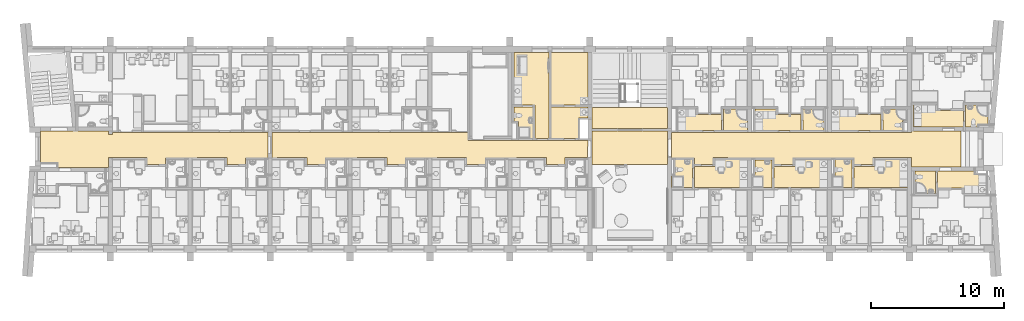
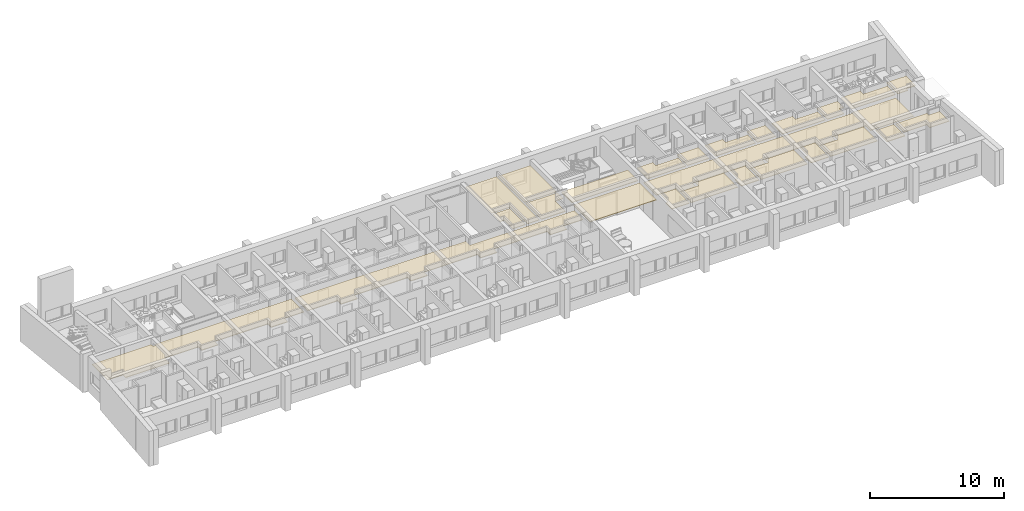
# One storey, part 28 of 165: 25 coverings.
"""IFC2X3 building model written with IfcOpenShell, lengths in millimetres."""

from ifc_helpers import new_model, entity, si_unit, converted_unit, money_unit, direction, frame, origin_with_axes, place, context, subcontext, project, spatial, faceted_brep, material, type_object, element, save


model = new_model("IFC2X3")

# Units and contexts
model_context = context("Model", 3, precision=1e-05, world=origin_with_axes(), true_north=direction((0.0, 1.0)))
body_context = subcontext(model_context, "Body", "Model", "MODEL_VIEW")
ifc_project = project(units=[si_unit("LENGTHUNIT", "METRE", prefix="MILLI"), si_unit("AREAUNIT", "SQUARE_METRE"), si_unit("VOLUMEUNIT", "CUBIC_METRE"), converted_unit("PLANEANGLEUNIT", "DEGREE", entity("IfcPlaneAngleMeasure", 0.0174532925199), si_unit("PLANEANGLEUNIT", "RADIAN"), dimensions=[0, 0, 0, 0, 0, 0, 0]), si_unit("SOLIDANGLEUNIT", "STERADIAN"), money_unit("USD"), converted_unit("TIMEUNIT", "Year", entity("IfcTimeMeasure", 31556926.0), si_unit("TIMEUNIT", "SECOND"), dimensions=[0, 0, 0, 0, 0, 0, 0]), si_unit("MASSUNIT", "GRAM"), si_unit("THERMODYNAMICTEMPERATUREUNIT", "DEGREE_CELSIUS"), si_unit("LUMINOUSINTENSITYUNIT", "LUMEN")], contexts=[model_context])

# Site, building, storey
site_placement = place(None, origin_with_axes())
site = spatial("IfcSite", under=ifc_project, at=site_placement, Name="Site", CompositionType="ELEMENT")
building_placement = place(site_placement, origin_with_axes())
building = spatial("IfcBuilding", under=site, at=building_placement, Name="Building", CompositionType="ELEMENT")
storey_placement = place(building_placement, frame((0.0, 0.0, 6300.0), z_axis=(0.0, 0.0, 1.0), x_axis=(1.0, 0.0, 0.0)))
storey = spatial("IfcBuildingStorey", under=building, at=storey_placement, Name="4KORRUS", CompositionType="ELEMENT", Elevation=6300.0)

# Coverings
ifc_material_1 = material(Name="Alumiiniumprofiil")
covering_type_1 = type_object("IfcCoveringType", Name="Alumiiniumprofiil 50", PredefinedType="NOTDEFINED")
covering_1_placement = place(storey_placement, frame((7553.60828238, -15289.2398994, 2350.0), z_axis=(0.0, 0.0, 1.0), x_axis=(1.0, 0.0, 0.0)))
element("IfcCovering", 1, at=covering_1_placement, inside=storey, type_object=covering_type_1, material=ifc_material_1, Name="RL2", ObjectType="alumiiniumprofiil", PredefinedType="CEILING", context=body_context, shape_type="Brep", body=[
    faceted_brep([(0.0, 0.0, -50.0), (0.0, 2099.869, -50.0), (0.0, 2099.869, 0.0), (0.0, 0.0, 0.0), (-1543.905, 0.0, -50.0), (-1543.905, 912.768, -50.0), (-1293.617, 912.768, -50.0), (-1300.193, 2099.869, -50.0), (-1300.193, 2099.869, 0.0), (-1293.617, 912.768, 0.0), (-1543.905, 912.768, 0.0), (-1543.905, 0.0, 0.0)], [[[0, 1, 2, 3]], [[0, 4, 5, 6, 7, 1]], [[1, 7, 8, 2]], [[3, 2, 8, 9, 10, 11]], [[4, 0, 3, 11]], [[5, 4, 11, 10]], [[6, 5, 10, 9]], [[7, 6, 9, 8]]]),
])
covering_2_placement = place(storey_placement, frame((3884.70329669, -9367.37850445, 2350.0), z_axis=(0.0, 0.0, 1.0), x_axis=(1.0, 0.0, 0.0)))
element("IfcCovering", 2, at=covering_2_placement, inside=storey, type_object=covering_type_1, material=ifc_material_1, Name="RL2", ObjectType="alumiiniumprofiil", PredefinedType="CEILING", context=body_context, shape_type="Brep", body=[
    faceted_brep([(0.0, 0.0, -50.0), (0.0, -1620.723, -50.0), (0.0, -1620.723, 0.0), (0.0, 0.0, 0.0), (1575.0, -1.497, -50.0), (1575.0, -1619.723, -50.0), (1575.0, -1619.723, 0.0), (1575.0, -1.497, 0.0)], [[[0, 1, 2, 3]], [[0, 4, 5, 1]], [[1, 5, 6, 2]], [[3, 2, 6, 7]], [[4, 0, 3, 7]], [[5, 4, 7, 6]]]),
])
covering_3_placement = place(storey_placement, frame((9884.70329669, -10988.1015713, 2350.0), z_axis=(0.0, 0.0, 1.0), x_axis=(1.0, 0.0, 0.0)))
element("IfcCovering", 3, at=covering_3_placement, inside=storey, type_object=covering_type_1, material=ifc_material_1, Name="RL2", ObjectType="alumiiniumprofiil", PredefinedType="CEILING", context=body_context, shape_type="Brep", body=[
    faceted_brep([(0.0, 0.0, -50.0), (1238.577, 0.0, -50.0), (1238.577, 0.0, 0.0), (0.0, 0.0, 0.0), (0.0, 1620.723, -50.0), (1825.0, 1620.723, -50.0), (1825.0, 720.723, -50.0), (1452.923, 710.239, -50.0), (1452.923, 1.497, -50.0), (1452.923, 1.497, 0.0), (1452.923, 710.239, 0.0), (1825.0, 720.723, 0.0), (1825.0, 1620.723, 0.0), (0.0, 1620.723, 0.0)], [[[0, 1, 2, 3]], [[0, 4, 5, 6, 7, 8, 1]], [[1, 8, 9, 2]], [[3, 2, 9, 10, 11, 12, 13]], [[4, 0, 3, 13]], [[5, 4, 13, 12]], [[6, 5, 12, 11]], [[7, 6, 11, 10]], [[8, 7, 10, 9]]]),
])
covering_4_placement = place(storey_placement, frame((12259.8307056, -14039.2398985, 2350.0), z_axis=(0.0, 0.0, 1.0), x_axis=(1.0, 0.0, 0.0)))
element("IfcCovering", 4, at=covering_4_placement, inside=storey, type_object=covering_type_1, material=ifc_material_1, Name="RL2", ObjectType="alumiiniumprofiil", PredefinedType="CEILING", context=body_context, shape_type="Brep", body=[
    faceted_brep([(0.0, 0.0, -50.0), (0.0, -1699.786, -50.0), (0.0, -1699.786, 0.0), (0.0, 0.0, 0.0), (1574.453, -11.335, -50.0), (1574.422, -1699.786, -50.0), (1574.422, -1699.786, 0.0), (1574.453, -11.335, 0.0)], [[[0, 1, 2, 3]], [[0, 4, 5, 1]], [[1, 5, 6, 2]], [[3, 2, 6, 7]], [[4, 0, 3, 7]], [[5, 4, 7, 6]]]),
])
covering_5_placement = place(storey_placement, frame((-5990.29670223, -14380.4716262, 2350.0), z_axis=(0.0, 0.0, 1.0), x_axis=(1.0, 0.0, 0.0)))
element("IfcCovering", 5, at=covering_5_placement, inside=storey, type_object=covering_type_1, material=ifc_material_1, Name="RL2", ObjectType="alumiiniumprofiil", PredefinedType="CEILING", context=body_context, shape_type="Brep", body=[
    faceted_brep([(0.0, 0.0, -50.0), (0.0, -908.768, -50.0), (0.0, -908.768, 0.0), (0.0, 0.0, 0.0), (250.0, 0.0, -50.0), (254.978, 1191.101, -50.0), (1550.193, 1191.101, -50.0), (1550.193, -908.768, -50.0), (1550.193, -908.768, 0.0), (1550.193, 1191.101, 0.0), (254.978, 1191.101, 0.0), (250.0, 0.0, 0.0)], [[[0, 1, 2, 3]], [[0, 4, 5, 6, 7, 1]], [[1, 7, 8, 2]], [[3, 2, 8, 9, 10, 11]], [[4, 0, 3, 11]], [[5, 4, 11, 10]], [[6, 5, 10, 9]], [[7, 6, 9, 8]]]),
])
covering_6_placement = place(storey_placement, frame((1553.60828238, -15289.2398994, 2350.0), z_axis=(0.0, 0.0, 1.0), x_axis=(1.0, 0.0, 0.0)))
element("IfcCovering", 6, at=covering_6_placement, inside=storey, type_object=covering_type_1, material=ifc_material_1, Name="RL2", ObjectType="alumiiniumprofiil", PredefinedType="CEILING", context=body_context, shape_type="Brep", body=[
    faceted_brep([(0.0, 0.0, -50.0), (0.0, 2099.739, -50.0), (0.0, 2099.739, 0.0), (0.0, 0.0, 0.0), (-1543.905, 0.0, -50.0), (-1543.905, 976.249, -50.0), (-1293.905, 976.249, -50.0), (-1295.215, 2099.739, -50.0), (-1295.215, 2099.739, 0.0), (-1293.905, 976.249, 0.0), (-1543.905, 976.249, 0.0), (-1543.905, 0.0, 0.0)], [[[0, 1, 2, 3]], [[0, 4, 5, 6, 7, 1]], [[1, 7, 8, 2]], [[3, 2, 8, 9, 10, 11]], [[4, 0, 3, 11]], [[5, 4, 11, 10]], [[6, 5, 10, 9]], [[7, 6, 9, 8]]]),
])
covering_7_placement = place(storey_placement, frame((16053.8738504, -10739.6041088, 2350.0), z_axis=(0.0, 0.0, 1.0), x_axis=(1.0, 0.0, 0.0)))
element("IfcCovering", 7, at=covering_7_placement, inside=storey, type_object=covering_type_1, material=ifc_material_1, Name="RL2", ObjectType="alumiiniumprofiil", PredefinedType="CEILING", context=body_context, shape_type="Brep", body=[
    faceted_brep([(0.0, 0.0, -50.0), (899.839, 0.0, -50.0), (899.839, 0.0, 0.0), (0.0, 0.0, 0.0), (0.0, 1669.235, -50.0), (1712.688, 1669.235, -50.0), (1712.688, 250.0, -50.0), (899.839, 250.0, -50.0), (899.839, 250.0, 0.0), (1712.688, 250.0, 0.0), (1712.688, 1669.235, 0.0), (0.0, 1669.235, 0.0)], [[[0, 1, 2, 3]], [[0, 4, 5, 6, 7, 1]], [[1, 7, 8, 2]], [[3, 2, 8, 9, 10, 11]], [[4, 0, 3, 11]], [[5, 4, 11, 10]], [[6, 5, 10, 9]], [[7, 6, 9, 8]]]),
])
covering_8_placement = place(storey_placement, frame((-2115.29670331, -10987.6041088, 2350.0), z_axis=(0.0, 0.0, 1.0), x_axis=(1.0, 0.0, 0.0)))
element("IfcCovering", 8, at=covering_8_placement, inside=storey, type_object=covering_type_1, material=ifc_material_1, Name="RL2", ObjectType="alumiiniumprofiil", PredefinedType="CEILING", context=body_context, shape_type="Brep", body=[
    faceted_brep([(0.0, 0.0, -50.0), (1825.0, 1.0, -50.0), (1825.0, 1.0, 0.0), (0.0, 0.0, 0.0), (0.0, 1620.226, -50.0), (1831.288, 1619.226, -50.0), (1831.288, 699.226, -50.0), (1831.288, 699.226, 0.0), (1831.288, 1619.226, 0.0), (0.0, 1620.226, 0.0)], [[[0, 1, 2, 3]], [[0, 4, 5, 6, 1]], [[1, 6, 7, 2]], [[3, 2, 7, 8, 9]], [[4, 0, 3, 9]], [[5, 4, 9, 8]], [[6, 5, 8, 7]]]),
])
covering_9_placement = place(storey_placement, frame((-17840.2967033, -10315.2398994, 2350.0), z_axis=(0.0, 0.0, 1.0), x_axis=(1.0, 0.0, 0.0)))
element("IfcCovering", 9, at=covering_9_placement, inside=storey, type_object=covering_type_1, material=ifc_material_1, Name="RL2", ObjectType="alumiiniumprofiil", PredefinedType="CEILING", context=body_context, shape_type="Brep", body=[
    faceted_brep([(0.0, 0.0, -50.0), (329.774, 0.0, -50.0), (329.774, 0.0, 0.0), (0.0, 0.0, 0.0), (0.0, 1099.667, -50.0), (1436.774, 1099.667, -50.0), (1436.774, -1274.0, -50.0), (336.774, -1274.0, -50.0), (336.774, -1274.0, 0.0), (1436.774, -1274.0, 0.0), (1436.774, 1099.667, 0.0), (0.0, 1099.667, 0.0)], [[[0, 1, 2, 3]], [[0, 4, 5, 6, 7, 1]], [[1, 7, 8, 2]], [[3, 2, 8, 9, 10, 11]], [[4, 0, 3, 11]], [[5, 4, 11, 10]], [[6, 5, 10, 9]], [[7, 6, 9, 8]]]),
])
ifc_material_2 = material(Name="UmbKipsplaat")
covering_type_2 = type_object("IfcCoveringType", Name="UmbKipsplaat 50", PredefinedType="NOTDEFINED")
covering_10_placement = place(storey_placement, frame((-11990.2967033, -10839.6041088, 2350.0), z_axis=(0.0, 0.0, 1.0), x_axis=(1.0, 0.0, 0.0)))
element("IfcCovering", 10, at=covering_10_placement, inside=storey, type_object=covering_type_2, material=ifc_material_2, Name="RL1", ObjectType="kipsplaat", PredefinedType="CEILING", context=body_context, shape_type="Brep", body=[
    faceted_brep([(0.0, 0.0, -50.0), (5700.0, 0.0, -50.0), (5700.0, 0.0, 0.0), (0.0, 0.0, 0.0), (0.0, 1558.961, -50.0), (5700.0, 1558.961, -50.0), (5700.0, 1558.961, 0.0), (0.0, 1558.961, 0.0)], [[[0, 1, 2, 3]], [[0, 4, 5, 1]], [[1, 5, 6, 2]], [[3, 2, 6, 7]], [[4, 0, 3, 7]], [[5, 4, 7, 6]]]),
])
covering_11_placement = place(storey_placement, frame((266.697734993, -9365.87594213, 2350.0), z_axis=(0.0, 0.0, 1.0), x_axis=(1.0, 0.0, 0.0)))
element("IfcCovering", 11, at=covering_11_placement, inside=storey, type_object=covering_type_2, material=ifc_material_2, Name="RL1", ObjectType="kipsplaat", PredefinedType="CEILING", context=body_context, shape_type="Brep", body=[
    faceted_brep([(0.0, 0.0, -50.0), (0.0, -1619.226, -50.0), (0.0, -1619.226, 0.0), (0.0, 0.0, 0.0), (1567.559, -0.503, -50.0), (1567.559, -440.516, -50.0), (3468.006, -440.516, -50.0), (3468.006, -1620.226, -50.0), (3468.006, -1620.226, 0.0), (3468.006, -440.516, 0.0), (1567.559, -440.516, 0.0), (1567.559, -0.503, 0.0)], [[[0, 1, 2, 3]], [[0, 4, 5, 6, 7, 1]], [[1, 7, 8, 2]], [[3, 2, 8, 9, 10, 11]], [[4, 0, 3, 11]], [[5, 4, 11, 10]], [[6, 5, 10, 9]], [[7, 6, 9, 8]]]),
])
covering_12_placement = place(storey_placement, frame((6009.70329669, -9366.37850445, 2350.0), z_axis=(0.0, 0.0, 1.0), x_axis=(1.0, 0.0, 0.0)))
element("IfcCovering", 12, at=covering_12_placement, inside=storey, type_object=covering_type_2, material=ifc_material_2, Name="RL1", ObjectType="kipsplaat", PredefinedType="CEILING", context=body_context, shape_type="Brep", body=[
    faceted_brep([(0.0, 0.0, -50.0), (0.0, -1619.226, -50.0), (0.0, -1619.226, 0.0), (0.0, 0.0, 0.0), (1824.553, -0.503, -50.0), (1824.553, -440.516, -50.0), (3725.0, -440.516, -50.0), (3725.0, -1620.226, -50.0), (3725.0, -1620.226, 0.0), (3725.0, -440.516, 0.0), (1824.553, -440.516, 0.0), (1824.553, -0.503, 0.0)], [[[0, 1, 2, 3]], [[0, 4, 5, 6, 7, 1]], [[1, 7, 8, 2]], [[3, 2, 8, 9, 10, 11]], [[4, 0, 3, 11]], [[5, 4, 11, 10]], [[6, 5, 10, 9]], [[7, 6, 9, 8]]]),
])
covering_13_placement = place(storey_placement, frame((17599.5994706, -15738.0262806, 2350.0), z_axis=(0.0, 0.0, 1.0), x_axis=(1.0, 0.0, 0.0)))
element("IfcCovering", 13, at=covering_13_placement, inside=storey, type_object=covering_type_2, material=ifc_material_2, Name="RL1", ObjectType="kipsplaat", PredefinedType="CEILING", context=body_context, shape_type="Brep", body=[
    faceted_brep([(0.0, 0.0, -50.0), (36.502, -1.0, -50.0), (36.502, -1.0, 0.0), (0.0, 0.0, 0.0), (-1638.051, 0.0, -50.0), (-1638.051, 439.516, -50.0), (-3615.343, 439.516, -50.0), (-3615.343, 1698.786, -50.0), (-898.002, 1698.786, -50.0), (-898.002, 1438.786, -50.0), (36.502, 1438.786, -50.0), (36.502, 1438.786, 0.0), (-898.002, 1438.786, 0.0), (-898.002, 1698.786, 0.0), (-3615.343, 1698.786, 0.0), (-3615.343, 439.516, 0.0), (-1638.051, 439.516, 0.0), (-1638.051, 0.0, 0.0)], [[[0, 1, 2, 3]], [[0, 4, 5, 6, 7, 8, 9, 10, 1]], [[1, 10, 11, 2]], [[3, 2, 11, 12, 13, 14, 15, 16, 17]], [[4, 0, 3, 17]], [[5, 4, 17, 16]], [[6, 5, 16, 15]], [[7, 6, 15, 14]], [[8, 7, 14, 13]], [[9, 8, 13, 12]], [[10, 9, 12, 11]]]),
])
covering_14_placement = place(storey_placement, frame((9240.42259754, -13189.2398994, 2350.0), z_axis=(0.0, 0.0, 1.0), x_axis=(1.0, 0.0, 0.0)))
element("IfcCovering", 14, at=covering_14_placement, inside=storey, type_object=covering_type_2, material=ifc_material_2, Name="RL1", ObjectType="kipsplaat", PredefinedType="CEILING", context=body_context, shape_type="Brep", body=[
    faceted_brep([(0.0, 0.0, -50.0), (0.0, -500.213, -50.0), (0.0, -500.213, 0.0), (0.0, 0.0, 0.0), (2469.281, 0.0, -50.0), (2469.281, -2100.0, -50.0), (-1549.661, -2100.0, -50.0), (-1549.661, -500.213, -50.0), (-1549.661, -500.213, 0.0), (-1549.661, -2100.0, 0.0), (2469.281, -2100.0, 0.0), (2469.281, 0.0, 0.0)], [[[0, 1, 2, 3]], [[0, 4, 5, 6, 7, 1]], [[1, 7, 8, 2]], [[3, 2, 8, 9, 10, 11]], [[4, 0, 3, 11]], [[5, 4, 11, 10]], [[6, 5, 10, 9]], [[7, 6, 9, 8]]]),
])
covering_15_placement = place(storey_placement, frame((-290.296703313, -15289.2398994, 2350.0), z_axis=(0.0, 0.0, 1.0), x_axis=(1.0, 0.0, 0.0)))
element("IfcCovering", 15, at=covering_15_placement, inside=storey, type_object=covering_type_2, material=ifc_material_2, Name="RL1", ObjectType="kipsplaat", PredefinedType="CEILING", context=body_context, shape_type="Brep", body=[
    faceted_brep([(0.0, 0.0, -50.0), (0.0, 2100.0, -50.0), (0.0, 2100.0, 0.0), (0.0, 0.0, 0.0), (-3999.807, 0.0, -50.0), (-3999.807, 1599.787, -50.0), (-2450.146, 1599.787, -50.0), (-2450.146, 2100.0, -50.0), (-2450.146, 2100.0, 0.0), (-2450.146, 1599.787, 0.0), (-3999.807, 1599.787, 0.0), (-3999.807, 0.0, 0.0)], [[[0, 1, 2, 3]], [[0, 4, 5, 6, 7, 1]], [[1, 7, 8, 2]], [[3, 2, 8, 9, 10, 11]], [[4, 0, 3, 11]], [[5, 4, 11, 10]], [[6, 5, 10, 9]], [[7, 6, 9, 8]]]),
])
covering_16_placement = place(storey_placement, frame((3257.08685223, -13189.3705726, 2350.0), z_axis=(0.0, 0.0, 1.0), x_axis=(1.0, 0.0, 0.0)))
element("IfcCovering", 16, at=covering_16_placement, inside=storey, type_object=covering_type_2, material=ifc_material_2, Name="RL1", ObjectType="kipsplaat", PredefinedType="CEILING", context=body_context, shape_type="Brep", body=[
    faceted_brep([(0.0, 0.0, -50.0), (0.0, -500.213, -50.0), (0.0, -500.213, 0.0), (0.0, 0.0, 0.0), (2450.146, 0.0, -50.0), (2450.146, -2099.869, -50.0), (-1549.661, -2099.869, -50.0), (-1549.661, -500.213, -50.0), (-1549.661, -500.213, 0.0), (-1549.661, -2099.869, 0.0), (2450.146, -2099.869, 0.0), (2450.146, 0.0, 0.0)], [[[0, 1, 2, 3]], [[0, 4, 5, 6, 7, 1]], [[1, 7, 8, 2]], [[3, 2, 8, 9, 10, 11]], [[4, 0, 3, 11]], [[5, 4, 11, 10]], [[6, 5, 10, 9]], [[7, 6, 9, 8]]]),
])
covering_17_placement = place(storey_placement, frame((12184.2564771, -9070.3690093, 2350.0), z_axis=(0.0, 0.0, 1.0), x_axis=(1.0, 0.0, 0.0)))
element("IfcCovering", 17, at=covering_17_placement, inside=storey, type_object=covering_type_2, material=ifc_material_2, Name="RL1", ObjectType="kipsplaat", PredefinedType="CEILING", context=body_context, shape_type="Brep", body=[
    faceted_brep([(0.0, 0.0, -50.0), (-24.553, 1.0, -50.0), (-24.553, 1.0, 0.0), (0.0, 0.0, 0.0), (1650.0, 0.0, -50.0), (1650.0, -439.516, -50.0), (3719.617, -439.516, -50.0), (3719.617, -1669.235, -50.0), (-24.553, -1669.235, -50.0), (-24.553, -1669.235, 0.0), (3719.617, -1669.235, 0.0), (3719.617, -439.516, 0.0), (1650.0, -439.516, 0.0), (1650.0, 0.0, 0.0)], [[[0, 1, 2, 3]], [[0, 4, 5, 6, 7, 8, 1]], [[1, 8, 9, 2]], [[3, 2, 9, 10, 11, 12, 13]], [[4, 0, 3, 13]], [[5, 4, 13, 12]], [[6, 5, 12, 11]], [[7, 6, 11, 10]], [[8, 7, 10, 9]]]),
])
covering_18_placement = place(storey_placement, frame((-11990.2967033, -11039.6041145, 2250.0), z_axis=(0.0, 0.0, 1.0), x_axis=(1.0, 0.0, 0.0)))
element("IfcCovering", 18, at=covering_18_placement, inside=storey, type_object=covering_type_2, material=ifc_material_2, Name="RL1", ObjectType="kipsplaat", PredefinedType="CEILING", context=body_context, shape_type="Brep", body=[
    faceted_brep([(0.0, 0.0, -50.0), (0.0, -2516.722, -50.0), (0.0, -2516.722, 0.0), (0.0, 0.0, 0.0), (5700.0, 0.0, -50.0), (5700.0, -2516.722, -50.0), (5700.0, -2516.722, 0.0), (5700.0, 0.0, 0.0)], [[[0, 1, 2, 3]], [[0, 4, 5, 1]], [[1, 5, 6, 2]], [[3, 2, 6, 7]], [[4, 0, 3, 7]], [[5, 4, 7, 6]]]),
])
covering_19_placement = place(storey_placement, frame((-17840.2967033, -6287.17743627, 2350.0), z_axis=(0.0, 0.0, 1.0), x_axis=(1.0, 0.0, 0.0)))
element("IfcCovering", 19, at=covering_19_placement, inside=storey, type_object=covering_type_2, material=ifc_material_2, Name="RL1", ObjectType="kipsplaat", PredefinedType="CEILING", context=body_context, shape_type="Brep", body=[
    faceted_brep([(0.0, -2778.396, -50.0), (1586.774, -2778.396, -50.0), (1586.774, -2778.396, 0.0), (0.0, -2778.396, 0.0), (0.0, 1147.573, -50.0), (2643.0, 1147.573, -50.0), (2643.0, -5302.062, -50.0), (1586.774, -5302.062, -50.0), (1586.774, -5302.062, 0.0), (2643.0, -5302.062, 0.0), (2643.0, 1147.573, 0.0), (0.0, 1147.573, 0.0)], [[[0, 1, 2, 3]], [[0, 4, 5, 6, 7, 1]], [[1, 7, 8, 2]], [[3, 2, 8, 9, 10, 11]], [[4, 0, 3, 11]], [[5, 4, 11, 10]], [[6, 5, 10, 9]], [[7, 6, 9, 8]]]),
])
covering_20_placement = place(storey_placement, frame((-15047.2967033, -11589.2398994, 2350.0), z_axis=(0.0, 0.0, 1.0), x_axis=(1.0, 0.0, 0.0)))
element("IfcCovering", 20, at=covering_20_placement, inside=storey, type_object=covering_type_2, material=ifc_material_2, Name="RL1", ObjectType="kipsplaat", PredefinedType="CEILING", context=body_context, shape_type="Brep", body=[
    faceted_brep([(0.0, 0.0, -50.0), (2057.0, 0.0, -50.0), (2057.0, 0.0, 0.0), (0.0, 0.0, 0.0), (0.0, 2373.667, -50.0), (2757.0, 2373.667, -50.0), (2757.0, 1527.0, -50.0), (2057.0, 1527.0, -50.0), (2057.0, 1527.0, 0.0), (2757.0, 1527.0, 0.0), (2757.0, 2373.667, 0.0), (0.0, 2373.667, 0.0)], [[[0, 1, 2, 3]], [[0, 4, 5, 6, 7, 1]], [[1, 7, 8, 2]], [[3, 2, 8, 9, 10, 11]], [[4, 0, 3, 11]], [[5, 4, 11, 10]], [[6, 5, 10, 9]], [[7, 6, 9, 8]]]),
])
covering_21_placement = place(storey_placement, frame((-5533.30226501, -10985.6040698, 2350.0), z_axis=(0.0, 0.0, 1.0), x_axis=(1.0, 0.0, 0.0)))
element("IfcCovering", 21, at=covering_21_placement, inside=storey, type_object=covering_type_2, material=ifc_material_2, Name="RL1", ObjectType="kipsplaat", PredefinedType="CEILING", context=body_context, shape_type="Brep", body=[
    faceted_brep([(0.0, 0.0, -50.0), (3275.006, -1.0, -50.0), (3275.006, -1.0, 0.0), (0.0, 0.0, 0.0), (0.0, 1619.226, -50.0), (1350.0, 1618.226, -50.0), (1350.0, 1178.71, -50.0), (3275.006, 1178.71, -50.0), (3275.006, 1178.71, 0.0), (1350.0, 1178.71, 0.0), (1350.0, 1618.226, 0.0), (0.0, 1619.226, 0.0)], [[[0, 1, 2, 3]], [[0, 4, 5, 6, 7, 1]], [[1, 7, 8, 2]], [[3, 2, 8, 9, 10, 11]], [[4, 0, 3, 11]], [[5, 4, 11, 10]], [[6, 5, 10, 9]], [[7, 6, 9, 8]]]),
])
covering_22_placement = place(storey_placement, frame((-15047.2967033, -9065.57320461, 2350.0), z_axis=(0.0, 0.0, 1.0), x_axis=(1.0, 0.0, 0.0)))
element("IfcCovering", 22, at=covering_22_placement, inside=storey, type_object=covering_type_2, material=ifc_material_2, Name="RL1", ObjectType="kipsplaat", PredefinedType="CEILING", context=body_context, shape_type="Brep", body=[
    faceted_brep([(0.0, 0.0, -50.0), (2757.0, 0.0, -50.0), (2757.0, 0.0, 0.0), (0.0, 0.0, 0.0), (0.0, 3925.969, -50.0), (2757.0, 3925.969, -50.0), (2757.0, 3925.969, 0.0), (0.0, 3925.969, 0.0)], [[[0, 1, 2, 3]], [[0, 4, 5, 1]], [[1, 5, 6, 2]], [[3, 2, 6, 7]], [[4, 0, 3, 7]], [[5, 4, 7, 6]]]),
])
ifc_material_3 = material(Name="Terasvõrk")
covering_type_3 = type_object("IfcCoveringType", Name="Terasvõrk 50", PredefinedType="NOTDEFINED")
covering_23_placement = place(storey_placement, frame((-53377.938157, -13387.3375674, 2250.0), z_axis=(0.0, 0.0, 1.0), x_axis=(1.0, 0.0, 0.0)))
element("IfcCovering", 23, at=covering_23_placement, inside=storey, type_object=covering_type_3, material=ifc_material_3, Name="RL1", ObjectType="Terasvõrk", PredefinedType="CEILING", context=body_context, shape_type="Brep", body=[
    faceted_brep([(0.0, 0.0, -50.0), (1324.532, 0.0, -50.0), (1324.532, 0.0, 0.0), (0.0, 0.0, 0.0), (0.0, 2347.733, -50.0), (5087.641, 2347.733, -50.0), (5087.641, 2100.891, -50.0), (5387.641, 2097.733, -50.0), (5387.641, 2250.891, -50.0), (17087.641, 2250.733, -50.0), (17087.641, 348.024, -50.0), (15393.736, 347.967, -50.0), (15393.736, -152.115, -50.0), (13994.076, -152.115, -50.0), (13994.076, 348.098, -50.0), (9393.736, 347.967, -50.0), (9393.736, -152.115, -50.0), (7994.076, -152.115, -50.0), (7994.076, 348.098, -50.0), (5087.641, 348.098, -50.0), (5087.641, -400.0, -50.0), (1324.532, -393.503, -50.0), (1324.532, -393.503, 0.0), (5087.641, -400.0, 0.0), (5087.641, 348.098, 0.0), (7994.076, 348.098, 0.0), (7994.076, -152.115, 0.0), (9393.736, -152.115, 0.0), (9393.736, 347.967, 0.0), (13994.076, 348.098, 0.0), (13994.076, -152.115, 0.0), (15393.736, -152.115, 0.0), (15393.736, 347.967, 0.0), (17087.641, 348.024, 0.0), (17087.641, 2250.733, 0.0), (5387.641, 2250.891, 0.0), (5387.641, 2097.733, 0.0), (5087.641, 2100.891, 0.0), (5087.641, 2347.733, 0.0), (0.0, 2347.733, 0.0)], [[[0, 1, 2, 3]], [[0, 4, 5, 6, 7, 8, 9, 10, 11, 12, 13, 14, 15, 16, 17, 18, 19, 20, 21, 1]], [[1, 21, 22, 2]], [[3, 2, 22, 23, 24, 25, 26, 27, 28, 29, 30, 31, 32, 33, 34, 35, 36, 37, 38, 39]], [[4, 0, 3, 39]], [[5, 4, 39, 38]], [[6, 5, 38, 37]], [[7, 6, 37, 36]], [[8, 7, 36, 35]], [[9, 8, 35, 34]], [[10, 9, 34, 33]], [[11, 10, 33, 32]], [[12, 11, 32, 31]], [[13, 12, 31, 30]], [[14, 13, 30, 29]], [[15, 14, 29, 28]], [[16, 15, 28, 27]], [[17, 16, 27, 26]], [[18, 17, 26, 25]], [[19, 18, 25, 24]], [[20, 19, 24, 23]], [[21, 20, 23, 22]]]),
])
covering_24_placement = place(storey_placement, frame((-35984.008308, -13039.3139355, 2250.0), z_axis=(0.0, 0.0, 1.0), x_axis=(1.0, 0.0, 0.0)))
element("IfcCovering", 24, at=covering_24_placement, inside=storey, type_object=covering_type_3, material=ifc_material_3, Name="RL3", ObjectType="Terasvõrk", PredefinedType="CEILING", context=body_context, shape_type="Brep", body=[
    faceted_brep([(0.0, 0.0, -50.0), (2606.434, 0.074, -50.0), (2606.434, 0.074, 0.0), (0.0, 0.0, 0.0), (0.0, 1902.71, -50.0), (14696.497, 1902.71, -50.0), (14696.497, 1296.337, -50.0), (23693.712, 1297.255, -50.0), (23687.423, 2.943, -50.0), (21999.807, 2.943, -50.0), (21999.807, -500.138, -50.0), (20600.146, -500.138, -50.0), (20600.146, 0.074, -50.0), (16006.095, -0.057, -50.0), (16006.095, -500.138, -50.0), (14606.434, -500.138, -50.0), (14606.434, 0.074, -50.0), (10006.095, -0.057, -50.0), (10006.095, -500.138, -50.0), (8606.434, -500.138, -50.0), (8606.434, 0.074, -50.0), (4006.095, -0.057, -50.0), (4006.095, -500.138, -50.0), (2606.434, -500.138, -50.0), (2606.434, -500.138, 0.0), (4006.095, -500.138, 0.0), (4006.095, -0.057, 0.0), (8606.434, 0.074, 0.0), (8606.434, -500.138, 0.0), (10006.095, -500.138, 0.0), (10006.095, -0.057, 0.0), (14606.434, 0.074, 0.0), (14606.434, -500.138, 0.0), (16006.095, -500.138, 0.0), (16006.095, -0.057, 0.0), (20600.146, 0.074, 0.0), (20600.146, -500.138, 0.0), (21999.807, -500.138, 0.0), (21999.807, 2.943, 0.0), (23687.423, 2.943, 0.0), (23693.712, 1297.255, 0.0), (14696.497, 1296.337, 0.0), (14696.497, 1902.71, 0.0), (0.0, 1902.71, 0.0)], [[[0, 1, 2, 3]], [[0, 4, 5, 6, 7, 8, 9, 10, 11, 12, 13, 14, 15, 16, 17, 18, 19, 20, 21, 22, 23, 1]], [[1, 23, 24, 2]], [[3, 2, 24, 25, 26, 27, 28, 29, 30, 31, 32, 33, 34, 35, 36, 37, 38, 39, 40, 41, 42, 43]], [[4, 0, 3, 43]], [[5, 4, 43, 42]], [[6, 5, 42, 41]], [[7, 6, 41, 40]], [[8, 7, 40, 39]], [[9, 8, 39, 38]], [[10, 9, 38, 37]], [[11, 10, 37, 36]], [[12, 11, 36, 35]], [[13, 12, 35, 34]], [[14, 13, 34, 33]], [[15, 14, 33, 32]], [[16, 15, 32, 31]], [[17, 16, 31, 30]], [[18, 17, 30, 29]], [[19, 18, 29, 28]], [[20, 19, 28, 27]], [[21, 20, 27, 26]], [[22, 21, 26, 25]], [[23, 22, 25, 24]]]),
])
covering_25_placement = place(storey_placement, frame((-5990.29670331, -13039.631919, 2250.0), z_axis=(0.0, 0.0, 1.0), x_axis=(1.0, 0.0, 0.0)))
element("IfcCovering", 25, at=covering_25_placement, inside=storey, type_object=covering_type_3, material=ifc_material_3, Name="RL3", ObjectType="Terasvõrk", PredefinedType="CEILING", context=body_context, shape_type="Brep", body=[
    faceted_brep([(0.0, 0.0, -50.0), (1700.193, 0.0, -50.0), (1700.193, 0.0, 0.0), (0.0, 0.0, 0.0), (0.0, 1903.028, -50.0), (18000.0, 1904.028, -50.0), (18000.0, 2008.426, -50.0), (21726.432, 2008.426, -50.0), (21726.432, -691.21, -50.0), (18000.0, -691.21, -50.0), (18000.0, 0.392, -50.0), (15099.854, 0.392, -50.0), (15099.854, -499.82, -50.0), (13700.193, -499.82, -50.0), (13700.193, 0.261, -50.0), (9093.566, 0.261, -50.0), (9093.566, -499.951, -50.0), (7693.905, -499.951, -50.0), (7700.193, 0.131, -50.0), (3099.854, 0.392, -50.0), (3099.854, -499.82, -50.0), (1700.193, -500.082, -50.0), (1700.193, -500.082, 0.0), (3099.854, -499.82, 0.0), (3099.854, 0.392, 0.0), (7700.193, 0.131, 0.0), (7693.905, -499.951, 0.0), (9093.566, -499.951, 0.0), (9093.566, 0.261, 0.0), (13700.193, 0.261, 0.0), (13700.193, -499.82, 0.0), (15099.854, -499.82, 0.0), (15099.854, 0.392, 0.0), (18000.0, 0.392, 0.0), (18000.0, -691.21, 0.0), (21726.432, -691.21, 0.0), (21726.432, 2008.426, 0.0), (18000.0, 2008.426, 0.0), (18000.0, 1904.028, 0.0), (0.0, 1903.028, 0.0)], [[[0, 1, 2, 3]], [[0, 4, 5, 6, 7, 8, 9, 10, 11, 12, 13, 14, 15, 16, 17, 18, 19, 20, 21, 1]], [[1, 21, 22, 2]], [[3, 2, 22, 23, 24, 25, 26, 27, 28, 29, 30, 31, 32, 33, 34, 35, 36, 37, 38, 39]], [[4, 0, 3, 39]], [[5, 4, 39, 38]], [[6, 5, 38, 37]], [[7, 6, 37, 36]], [[8, 7, 36, 35]], [[9, 8, 35, 34]], [[10, 9, 34, 33]], [[11, 10, 33, 32]], [[12, 11, 32, 31]], [[13, 12, 31, 30]], [[14, 13, 30, 29]], [[15, 14, 29, 28]], [[16, 15, 28, 27]], [[17, 16, 27, 26]], [[18, 17, 26, 25]], [[19, 18, 25, 24]], [[20, 19, 24, 23]], [[21, 20, 23, 22]]]),
])

save(model, "model.ifc")
